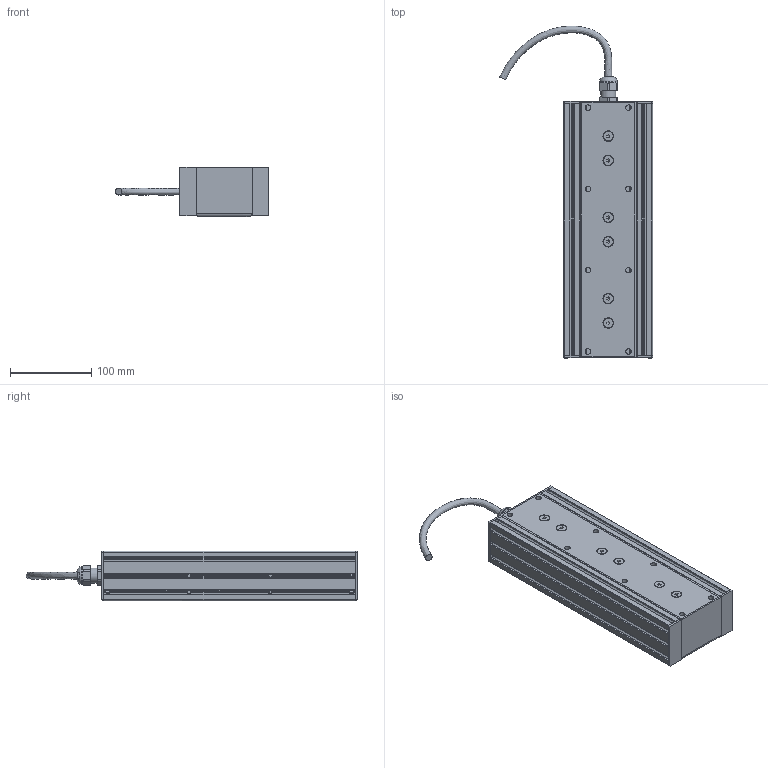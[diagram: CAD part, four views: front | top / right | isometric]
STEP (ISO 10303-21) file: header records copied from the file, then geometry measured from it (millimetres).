
FILE_DESCRIPTION(/* description */ (''),/* implementation_level */ '2;1');
FILE_NAME(/* name */ 'ELFQ-FA-PR003.step',/* time_stamp */ '2024-05-23T15:31:36+09:00',/* author */ (''),/* organization */ (''),/* preprocessor_version */ 'ST-DEVELOPER v20',/* originating_system */ 'Autodesk Translation Framework v13.14.0.145',/* authorisation */ '');
FILE_SCHEMA (('AUTOMOTIVE_DESIGN { 1 0 10303 214 3 1 1 }'));
Products named in the file (53): 19103-1B(ELFQ-FA-PR003); 18995-3-01; LBNR5; LBNR5_1; LBNR5_2; LBNR5_3; LBNR5_4; LBNR5_5; LBNR5_6; LBNR5_7; LBNR5_8; BOX-SFB5-15; LBNR5 v1(ミラー); LBNR5(ミラー); BOX-SFB5-15 v2(ミラー); SKINTOP ST PG 11      Art. Nr. 53015020(F=4); SKINTOP ST PG 11      Art. Nr. 53015020(F=4)_1; SKINTOP GMP-GL PG 11      Art. Nr. 53019020; SKINTOP GMP-GL PG 11      Art. Nr. 53019020_1; UL2464-OHFR-PCVV-19AWGx4C; 18995-3-02; SFB6-15; 18995-3-03; 18995-3-03_1; 18995-3-03_2; HFS5-2060-310; HFC5-2060-S; HFC5-2060-S_1; SSH-M5-10; HFC5-2060-S v1(ミラー); HFC5-2060-S(ミラー); SSH-M5-10_1; SSH-M5-10_2; SSH-M5-10_3; SSH-M5-10_4; SSH-M5-10_5; SSH-M5-10_6; SSH-M5-10_7; SSH-M5-10_8; 18995-3-05 v2(ミラー)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
Assembly tree (93 placements, depth 4):
  19103-1B(ELFQ-FA-PR003)
    18995-3-01
      LBNR5
        LBNR5_8
      LBNR5_1
        LBNR5_8
      LBNR5_2
        LBNR5_8
      LBNR5_3
        LBNR5_8
      LBNR5_4
        LBNR5_8
      LBNR5_5
        LBNR5_8
      LBNR5_6
        LBNR5_8
      LBNR5_7
        LBNR5_8
      BOX-SFB5-15  x5
      LBNR5 v1(ミラー)  x8
        LBNR5(ミラー)
      BOX-SFB5-15 v2(ミラー)  x5
      SKINTOP ST PG 11      Art. Nr. 53015020(F=4)
        SKINTOP ST PG 11      Art. Nr. 53015020(F=4)_1
      SKINTOP GMP-GL PG 11      Art. Nr. 53019020
        SKINTOP GMP-GL PG 11      Art. Nr. 53019020_1
      UL2464-OHFR-PCVV-19AWGx4C
    18995-3-02
      SFB6-15  x6
      18995-3-03
      18995-3-03_1
      18995-3-03_2
    HFS5-2060-310
      HFC5-2060-S
        HFC5-2060-S_1
      SSH-M5-10
        SSH-M5-10_8
      HFC5-2060-S v1(ミラー)
        HFC5-2060-S(ミラー)
      SSH-M5-10_1
        SSH-M5-10_8
      SSH-M5-10_2
        SSH-M5-10_8
      SSH-M5-10_3
        SSH-M5-10_8
      SSH-M5-10_4
        SSH-M5-10_8
      SSH-M5-10_5
        SSH-M5-10_8
      SSH-M5-10_6
        SSH-M5-10_8
      SSH-M5-10_7
        SSH-M5-10_8
    18995-3-05 v2(ミラー)
      HFC5-2060-S v1(ミラー)_1
        HFC5-2060-S(ミラー)_1
      SSH-M5-10 v1(ミラー)
        SSH-M5-10(ミラー)
      SSH-M5-10 v1(ミラー)_1
        SSH-M5-10(ミラー)
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Bounding box: 188.37 x 408.53 x 61 mm (x, y, z)
Volume: 840730.9 mm3; surface area: 535009.4 mm2
Topology: 24 solids, 1115 shells, 2125 faces, 7645 edges, 6493 vertices
Faces by surface type: plane 1257, cylinder 584, cone 277, torus 5, bspline 2
Full cylindrical faces by diameter (mm): 1.5 x12, 4 x1, 4.134 x16, 4.2 x22, 4.234 x10, 5 x42, 5.035 x6, 6 x19, 6.779 x8, 7 x6, 8.5 x1, 9 x16, 10 x22, 12 x6, 17.4 x1, 17.67 x2, 18.6 x2, 19 x1, 22 x1, 26 x1
Entity records: 60944 total; most frequent: CARTESIAN_POINT 15609, DIRECTION 9189, ORIENTED_EDGE 7283, EDGE_CURVE 4940, VERTEX_POINT 4112, AXIS2_PLACEMENT_3D 3101, LINE 2987, VECTOR 2987
